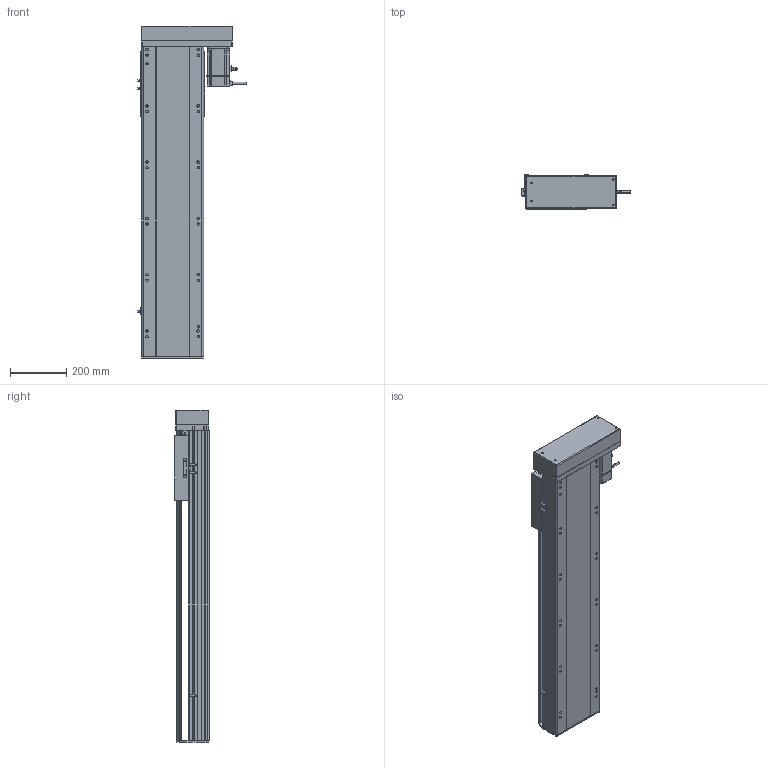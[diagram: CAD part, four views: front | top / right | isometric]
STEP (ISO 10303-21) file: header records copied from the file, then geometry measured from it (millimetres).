
FILE_DESCRIPTION (( 'STEP AP214' ), '1' );
FILE_NAME ('RTH22-XX-800-L-M75-C4.STEP', '2025-10-24T10:59:09', ( 'Microsoft' ), ( 'Microsoft' ), 'SwSTEP 2.0', 'SolidWorks 2018', '' );
FILE_SCHEMA (( 'AUTOMOTIVE_DESIGN' ));
Length unit declared in the file: millimetre
Products named in the file (10): RTH22-XX-800-L-M75-C4; N_750W萇儂^RTH22-XX-XX-L-M75-C4; N_RTH22-L-011菁釱^RTH22-XX-XX-L-M75-C4; N_OMRON EE-SX672 传感器^RTH22-XX-XX-L-M75-C4; N_RTH22-L-007奻裔^RTH22-XX-XX-L-M75-C4; N_RTH22-L-004-SFS25賑釱^RTH22-XX-XX-L-M75-C4; N_RTH22-L-018裔赽^RTH22-XX-XX-L-M75-C4; N_RTH22-L-008-P75萇儂啣^RTH22-XX-XX-L-M75-C4; N_RTH22-GY-001耜裔^RTH22-XX-XX-L-M75-C4; N_RTH22-GY-013外置感应片^RTH22-XX-XX-L-M75-C4
Assembly tree (11 placements, depth 2):
  RTH22-XX-800-L-M75-C4
    N_RTH22-L-011菁釱^RTH22-XX-XX-L-M75-C4
    N_RTH22-GY-001耜裔^RTH22-XX-XX-L-M75-C4
    N_750W萇儂^RTH22-XX-XX-L-M75-C4
    N_RTH22-L-008-P75萇儂啣^RTH22-XX-XX-L-M75-C4
    N_RTH22-L-007奻裔^RTH22-XX-XX-L-M75-C4
    N_RTH22-L-018裔赽^RTH22-XX-XX-L-M75-C4
    N_OMRON EE-SX672 传感器^RTH22-XX-XX-L-M75-C4  x3
    N_RTH22-GY-013外置感应片^RTH22-XX-XX-L-M75-C4
    N_RTH22-L-004-SFS25賑釱^RTH22-XX-XX-L-M75-C4
Bounding box: 384.7 x 122 x 1179.7 mm (x, y, z)
Volume: 16566696.5 mm3; surface area: 1881978.4 mm2
Topology: 11 solids, 11 shells, 1588 faces, 4329 edges, 2791 vertices
Faces by surface type: plane 793, cylinder 458, bspline 279, cone 58
Entity records: 39677 total; most frequent: CARTESIAN_POINT 12114, ORIENTED_EDGE 5634, DIRECTION 5307, EDGE_CURVE 2817, VERTEX_POINT 1827, AXIS2_PLACEMENT_3D 1780, VECTOR 1747, LINE 1747
